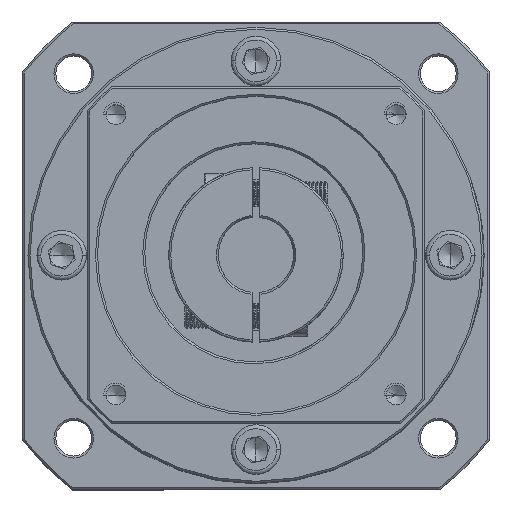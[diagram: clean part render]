
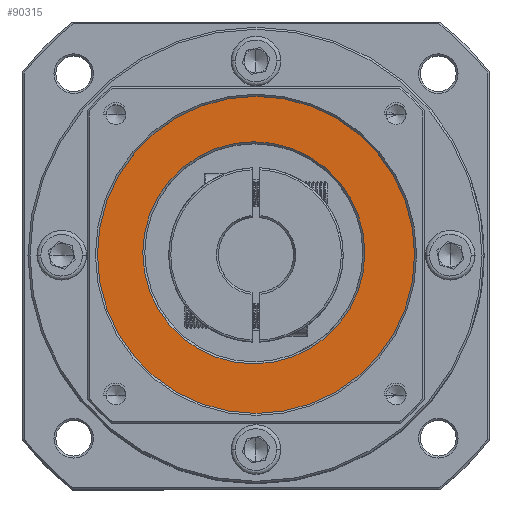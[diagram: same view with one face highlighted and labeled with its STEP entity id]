
A CAD part, top view. The second image highlights one B-rep face of the part: STEP entity #90315.
In plain terms, the highlighted planar face has unit normal (0, 0, 1).
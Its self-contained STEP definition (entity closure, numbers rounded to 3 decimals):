
#1145 = EDGE_CURVE ( 'NONE', #22074, #72929, #69273, .T. ) ;
#6913 = DIRECTION ( 'NONE',  ( 0., 0., 1. ) ) ;
#8167 = EDGE_CURVE ( 'NONE', #97546, #41780, #89543, .T. ) ;
#9988 = DIRECTION ( 'NONE',  ( 0., 0., -1. ) ) ;
#12958 = AXIS2_PLACEMENT_3D ( 'NONE', #75859, #26054, #84189 ) ;
#22074 = VERTEX_POINT ( 'NONE', #73648 ) ;
#22472 = CIRCLE ( 'NONE', #28675, 40. ) ;
#22565 = EDGE_LOOP ( 'NONE', ( #88201, #38251 ) ) ;
#25592 = EDGE_LOOP ( 'NONE', ( #76161, #102135 ) ) ;
#26054 = DIRECTION ( 'NONE',  ( 0., 0., -1. ) ) ;
#28675 = AXIS2_PLACEMENT_3D ( 'NONE', #56713, #6913, #65087 ) ;
#34062 = CARTESIAN_POINT ( 'NONE',  ( -104.379, 49.849, 42.838 ) ) ;
#35377 = CARTESIAN_POINT ( 'NONE',  ( -64.379, 49.849, 42.838 ) ) ;
#35557 = AXIS2_PLACEMENT_3D ( 'NONE', #34062, #92163, #42376 ) ;
#38251 = ORIENTED_EDGE ( 'NONE', *, *, #1145, .T. ) ;
#41780 = VERTEX_POINT ( 'NONE', #35377 ) ;
#42376 = DIRECTION ( 'NONE',  ( 1., 0., 0. ) ) ;
#45456 = CARTESIAN_POINT ( 'NONE',  ( -144.379, 49.849, 42.838 ) ) ;
#47923 = CARTESIAN_POINT ( 'NONE',  ( -104.379, 49.849, 42.838 ) ) ;
#51915 = FACE_BOUND ( 'NONE', #22565, .T. ) ;
#56307 = DIRECTION ( 'NONE',  ( 1., 0., 0. ) ) ;
#56713 = CARTESIAN_POINT ( 'NONE',  ( -104.379, 49.849, 42.838 ) ) ;
#59693 = CARTESIAN_POINT ( 'NONE',  ( -104.92, 50.383, 42.838 ) ) ;
#61964 = AXIS2_PLACEMENT_3D ( 'NONE', #59693, #9988, #68104 ) ;
#64557 = EDGE_CURVE ( 'NONE', #72929, #22074, #82085, .T. ) ;
#65087 = DIRECTION ( 'NONE',  ( 1., 0., 0. ) ) ;
#68104 = DIRECTION ( 'NONE',  ( 1., 0., 0. ) ) ;
#69273 = CIRCLE ( 'NONE', #12958, 28. ) ;
#71439 = FACE_OUTER_BOUND ( 'NONE', #25592, .T. ) ;
#72929 = VERTEX_POINT ( 'NONE', #82701 ) ;
#73648 = CARTESIAN_POINT ( 'NONE',  ( -132.92, 50.383, 42.838 ) ) ;
#75159 = PLANE ( 'NONE',  #35557 ) ;
#75859 = CARTESIAN_POINT ( 'NONE',  ( -104.92, 50.383, 42.838 ) ) ;
#76161 = ORIENTED_EDGE ( 'NONE', *, *, #96980, .T. ) ;
#78459 = AXIS2_PLACEMENT_3D ( 'NONE', #47923, #106068, #56307 ) ;
#82085 = CIRCLE ( 'NONE', #61964, 28. ) ;
#82701 = CARTESIAN_POINT ( 'NONE',  ( -76.92, 50.383, 42.838 ) ) ;
#84189 = DIRECTION ( 'NONE',  ( 1., 0., 0. ) ) ;
#88201 = ORIENTED_EDGE ( 'NONE', *, *, #64557, .T. ) ;
#89543 = CIRCLE ( 'NONE', #78459, 40. ) ;
#90315 = ADVANCED_FACE ( 'NONE', ( #71439, #51915 ), #75159, .T. ) ;
#92163 = DIRECTION ( 'NONE',  ( 0., 0., 1. ) ) ;
#96980 = EDGE_CURVE ( 'NONE', #41780, #97546, #22472, .T. ) ;
#97546 = VERTEX_POINT ( 'NONE', #45456 ) ;
#102135 = ORIENTED_EDGE ( 'NONE', *, *, #8167, .T. ) ;
#106068 = DIRECTION ( 'NONE',  ( 0., 0., 1. ) ) ;
